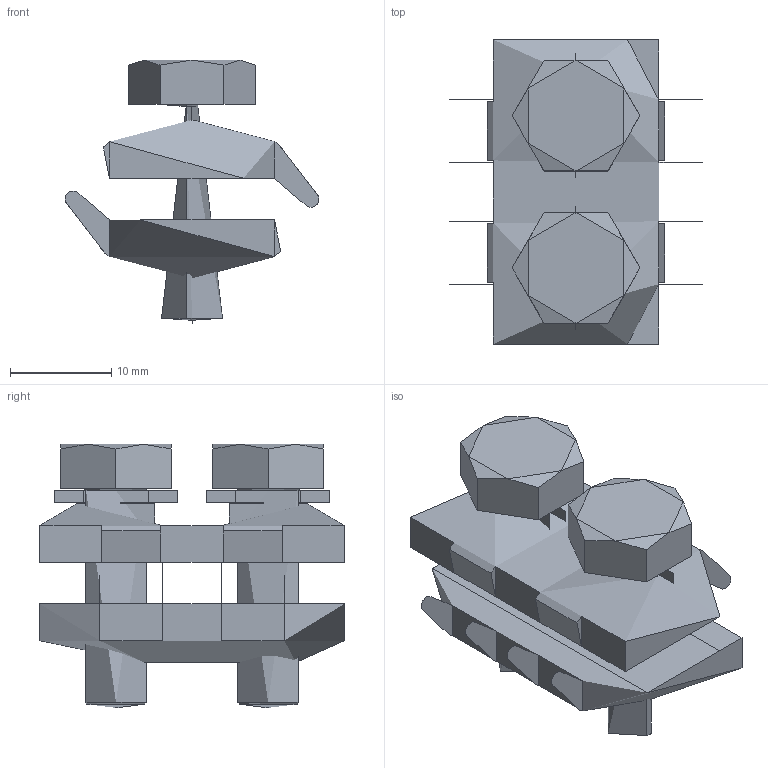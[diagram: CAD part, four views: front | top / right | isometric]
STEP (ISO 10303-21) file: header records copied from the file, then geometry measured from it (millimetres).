
FILE_DESCRIPTION(/* description */ (''),/* implementation_level */ '2;1');
FILE_NAME(/* name */ 'SVZM 2-3',/* time_stamp */ '2012-11-29T22:20:46+01:00',/* author */ (''),/* organization */ (''),/* preprocessor_version */ 'ST-DEVELOPER v10',/* originating_system */ '',/* authorisation */ '');
FILE_SCHEMA (('AUTOMOTIVE_DESIGN_CC2'));
Length unit declared in the file: millimetre
Products named in the file (1): 1
Bounding box: 25 x 30 x 26 mm (x, y, z)
Surface area: 5819.9 mm2 (no closed solid volume)
Topology: 0 solids, 84 shells, 100 faces, 428 edges, 396 vertices
Faces by surface type: plane 52, bspline 48
Entity records: 10795 total; most frequent: CARTESIAN_POINT 7902, ORIENTED_EDGE 448, EDGE_CURVE 416, VERTEX_POINT 386, B_SPLINE_CURVE_WITH_KNOTS 232, EDGE_LOOP 118, ADVANCED_FACE 100, FACE_OUTER_BOUND 100
